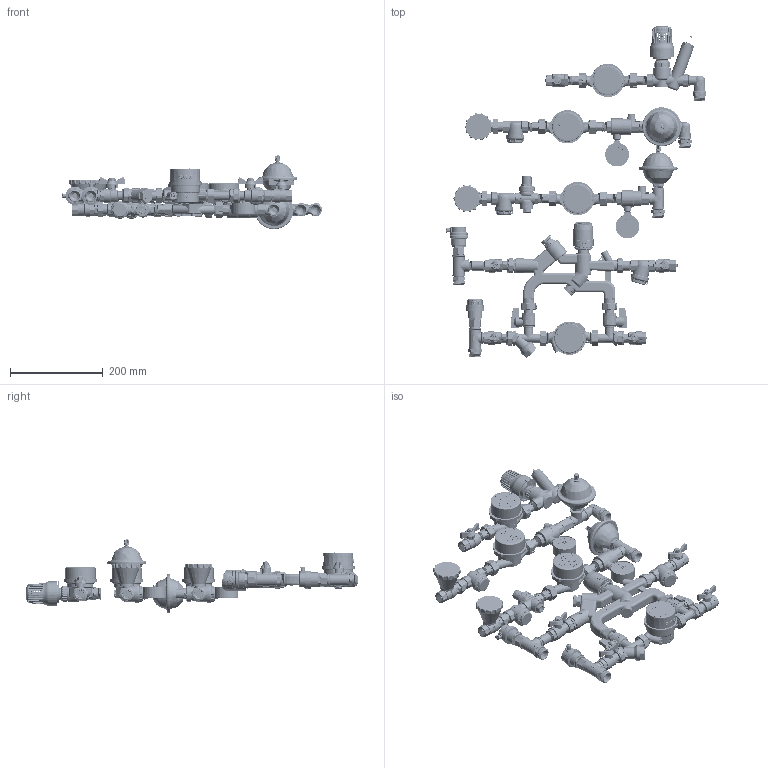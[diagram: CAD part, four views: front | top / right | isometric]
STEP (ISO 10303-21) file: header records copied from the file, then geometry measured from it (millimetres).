
FILE_DESCRIPTION(/* description */ (''),/* implementation_level */ '2;1');
FILE_NAME(/* name */ 'C:\Users\almis\Downloads\VT.NM.GFR.04.06.stp',/* time_stamp */ '2020-04-07T11:09:18+03:00',/* author */ ('BeN_GaN'),/* organization */ (''),/* preprocessor_version */ 'ST-DEVELOPER v18',/* originating_system */ 'Autodesk Inventor 2020',/* authorisation */ '');
FILE_SCHEMA (('AUTOMOTIVE_DESIGN { 1 0 10303 214 3 1 1 }'));
Products named in the file (36): VT.NM.F; Сборка0; Деталь1; Деталь2; Деталь3; Деталь4; Деталь5; VT.241.N.0405; VT.241.N.0405_02; VTr.613.04; VT.386.N.04; VT.215_ ВН_1%2; VTr.652.N.0406; Труба_025; VT.539.N; VT.502.NH.04_1; VT.TE3041; Деталь6; VT.387.N.04; VT.086.04; VTr.132.N.0004; VT.214_ВВ_1%2; VTr.728.N.0004; VT.171.N.04; VT.TM50.D_04; VTr.134.N.0004; VT.CAR19.I; VT.388.N.04; VTr.197.N.0430; VT.214_ВВ_1%2_1; Деталь3_1; VTr.611.N.0004; VT.348.N.04; VTr.092.N.0002; VTr.580.NE.040E; VHM-T-15_
Assembly tree (61 placements, depth 3):
  VT.NM.F
    Сборка0
      Деталь1
      Деталь2
      Деталь3
      Деталь4  x2
      Деталь5  x2
    VT.241.N.0405  x3
    VT.241.N.0405_02  x3
    VTr.613.04
    VT.386.N.04
    VT.215_ ВН_1%2
    VTr.652.N.0406
    Труба_025
    VT.539.N  x2
    VT.502.NH.04_1  x2
    VTr.580.NE.040E  x5
    VTr.132.N.0004  x2
    VT.TE3041
    Деталь6
    VT.214_ВВ_1%2  x2
    VTr.728.N.0004  x2
    VT.387.N.04
    VT.086.04
    VTr.611.N.0004  x6
    Деталь3_1  x3
    VT.171.N.04  x2
    VT.TM50.D_04  x2
    VT.CAR19.I  x2
    VTr.134.N.0004
    VTr.092.N.0002  x2
    VT.388.N.04
    VTr.197.N.0430
    VT.214_ВВ_1%2_1
    VT.348.N.04
    VHM-T-15_
Bounding box: 563.39 x 716.67 x 160.5 mm (x, y, z)
Volume: 2347177.1 mm3; surface area: 1055538.6 mm2
Topology: 89 solids, 121 shells, 32671 faces, 85844 edges, 54968 vertices
Faces by surface type: plane 12608, bspline 9377, cylinder 7511, torus 1652, cone 1263, sphere 260
Full cylindrical faces by diameter (mm): 0.5 x12, 1 x5, 1.5 x6, 1.99 x1, 2 x19, 2.1 x3, 2.3 x2, 2.5 x3, 2.8 x6, 3 x7, 3.2 x1, 3.464 x2, 3.5 x2, 4 x16, 4.05 x2, 4.1 x1, 4.5 x45, 4.9 x2, 4.99 x1, 5 x15, 5.5 x51, 5.6 x3, 5.774 x1, 5.8 x1, 6 x4, 6.5 x72, 6.534 x3, 6.6 x4, 6.7 x4, 6.8 x1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
Entity records: 938741 total; most frequent: CARTESIAN_POINT 469634, ORIENTED_EDGE 107604, DIRECTION 81015, EDGE_CURVE 53802, VERTEX_POINT 34578, AXIS2_PLACEMENT_3D 28620, LINE 23775, VECTOR 23775
